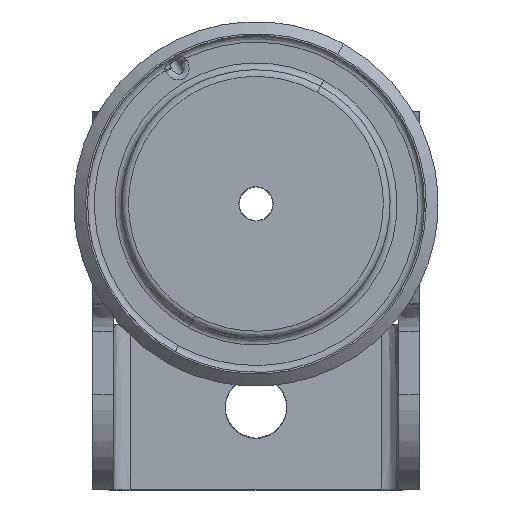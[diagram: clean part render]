
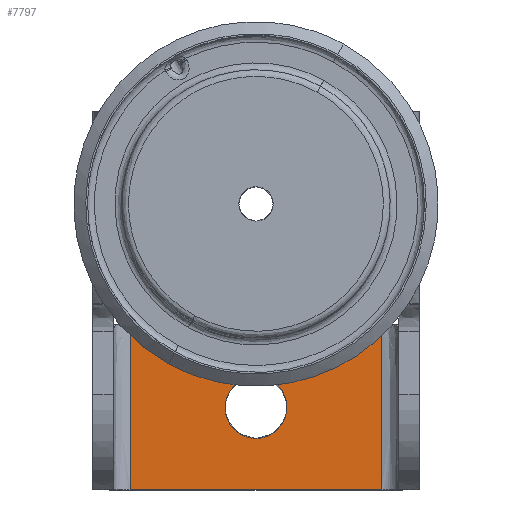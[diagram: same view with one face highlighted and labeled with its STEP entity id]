
A CAD part, top view. The second image highlights one B-rep face of the part: STEP entity #7797.
In plain terms, the highlighted planar face has unit normal (0, 0, 1).
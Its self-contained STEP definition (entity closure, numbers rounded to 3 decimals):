
#6534 = EDGE_CURVE ( 'NONE', #7609, #7497, #14336, .T. ) ;
#6541 = EDGE_CURVE ( 'NONE', #7599, #7342, #14876, .T. ) ;
#6572 = EDGE_CURVE ( 'NONE', #7609, #7599, #14488, .T. ) ;
#6801 = EDGE_CURVE ( 'NONE', #7660, #7403, #18792, .T. ) ;
#7342 = VERTEX_POINT ( 'NONE', #22906 ) ;
#7403 = VERTEX_POINT ( 'NONE', #22966 ) ;
#7497 = VERTEX_POINT ( 'NONE', #23060 ) ;
#7599 = VERTEX_POINT ( 'NONE', #23162 ) ;
#7609 = VERTEX_POINT ( 'NONE', #23172 ) ;
#7660 = VERTEX_POINT ( 'NONE', #23223 ) ;
#7797 = ADVANCED_FACE ( 'NONE', ( #20206, #20217 ), #22028, .T. ) ;
#9743 = CARTESIAN_POINT ( 'NONE',  ( 9., -59., -120. ) ) ;
#9748 = CARTESIAN_POINT ( 'NONE',  ( 9., -60.58, -120. ) ) ;
#9749 = CARTESIAN_POINT ( 'NONE',  ( 8.584, -62.132, -120. ) ) ;
#9750 = CARTESIAN_POINT ( 'NONE',  ( 7.794, -63.5, -120. ) ) ;
#9751 = CARTESIAN_POINT ( 'NONE',  ( 7.004, -64.868, -120. ) ) ;
#9752 = CARTESIAN_POINT ( 'NONE',  ( 5.868, -66.004, -120. ) ) ;
#9753 = CARTESIAN_POINT ( 'NONE',  ( 4.5, -66.794, -120. ) ) ;
#9754 = CARTESIAN_POINT ( 'NONE',  ( 3.132, -67.584, -120. ) ) ;
#9755 = CARTESIAN_POINT ( 'NONE',  ( 1.58, -68., -120. ) ) ;
#9756 = CARTESIAN_POINT ( 'NONE',  ( 0., -68., -120. ) ) ;
#9757 = CARTESIAN_POINT ( 'NONE',  ( -1.58, -68., -120. ) ) ;
#9758 = CARTESIAN_POINT ( 'NONE',  ( -3.132, -67.584, -120. ) ) ;
#9759 = CARTESIAN_POINT ( 'NONE',  ( -4.5, -66.794, -120. ) ) ;
#9760 = CARTESIAN_POINT ( 'NONE',  ( -5.868, -66.004, -120. ) ) ;
#9761 = CARTESIAN_POINT ( 'NONE',  ( -7.004, -64.868, -120. ) ) ;
#9762 = CARTESIAN_POINT ( 'NONE',  ( -7.794, -63.5, -120. ) ) ;
#9763 = CARTESIAN_POINT ( 'NONE',  ( -8.584, -62.132, -120. ) ) ;
#9764 = CARTESIAN_POINT ( 'NONE',  ( -9., -60.58, -120. ) ) ;
#9765 = CARTESIAN_POINT ( 'NONE',  ( -9., -59., -120. ) ) ;
#12709 = CARTESIAN_POINT ( 'NONE',  ( -9., -59., -120. ) ) ;
#12714 = CARTESIAN_POINT ( 'NONE',  ( -9., -57.42, -120. ) ) ;
#12715 = CARTESIAN_POINT ( 'NONE',  ( -8.584, -55.868, -120. ) ) ;
#12716 = CARTESIAN_POINT ( 'NONE',  ( -7.794, -54.5, -120. ) ) ;
#12717 = CARTESIAN_POINT ( 'NONE',  ( -7.004, -53.132, -120. ) ) ;
#12718 = CARTESIAN_POINT ( 'NONE',  ( -5.868, -51.996, -120. ) ) ;
#12719 = CARTESIAN_POINT ( 'NONE',  ( -4.5, -51.206, -120. ) ) ;
#12720 = CARTESIAN_POINT ( 'NONE',  ( -3.132, -50.416, -120. ) ) ;
#12721 = CARTESIAN_POINT ( 'NONE',  ( -1.58, -50., -120. ) ) ;
#12722 = CARTESIAN_POINT ( 'NONE',  ( 0., -50., -120. ) ) ;
#12723 = CARTESIAN_POINT ( 'NONE',  ( 1.58, -50., -120. ) ) ;
#12724 = CARTESIAN_POINT ( 'NONE',  ( 3.132, -50.416, -120. ) ) ;
#12725 = CARTESIAN_POINT ( 'NONE',  ( 4.5, -51.206, -120. ) ) ;
#12726 = CARTESIAN_POINT ( 'NONE',  ( 5.868, -51.996, -120. ) ) ;
#12727 = CARTESIAN_POINT ( 'NONE',  ( 7.004, -53.132, -120. ) ) ;
#12728 = CARTESIAN_POINT ( 'NONE',  ( 7.794, -54.5, -120. ) ) ;
#12729 = CARTESIAN_POINT ( 'NONE',  ( 8.584, -55.868, -120. ) ) ;
#12730 = CARTESIAN_POINT ( 'NONE',  ( 9., -57.42, -120. ) ) ;
#12731 = CARTESIAN_POINT ( 'NONE',  ( 9., -59., -120. ) ) ;
#13046 = EDGE_LOOP ( 'NONE', ( #22591, #22516 ) ) ;
#13204 = EDGE_LOOP ( 'NONE', ( #22617, #22624, #22668, #22619 ) ) ;
#14336 = LINE ( 'NONE', #22257, #14542 ) ;
#14488 = LINE ( 'NONE', #22075, #14559 ) ;
#14542 = VECTOR ( 'NONE', #22254, 1000. ) ;
#14559 = VECTOR ( 'NONE', #22074, 1000. ) ;
#14876 = LINE ( 'NONE', #22226, #15138 ) ;
#15138 = VECTOR ( 'NONE', #22225, 1000. ) ;
#18792 = B_SPLINE_CURVE_WITH_KNOTS ( 'NONE', 3,
 ( #9743, #9748, #9749, #9750, #9751, #9752, #9753, #9754, #9755, #9756, #9757, #9758, #9759, #9760, #9761, #9762, #9763, #9764, #9765 ),
 .UNSPECIFIED., .F., .F.,
 ( 4, 3, 3, 3, 3, 3, 4 ),
 ( -0.026, -0.021, -0.016, -0.012, -0.007, -0.002, 0.002 ),
 .UNSPECIFIED. ) ;
#19078 = B_SPLINE_CURVE_WITH_KNOTS ( 'NONE', 3,
 ( #12709, #12714, #12715, #12716, #12717, #12718, #12719, #12720, #12721, #12722, #12723, #12724, #12725, #12726, #12727, #12728, #12729, #12730, #12731 ),
 .UNSPECIFIED., .F., .F.,
 ( 4, 3, 3, 3, 3, 3, 4 ),
 ( -0.026, -0.021, -0.016, -0.012, -0.007, -0.002, 0.002 ),
 .UNSPECIFIED. ) ;
#20131 = VECTOR ( 'NONE', #35136, 1000. ) ;
#20140 = LINE ( 'NONE', #34152, #20131 ) ;
#20206 = FACE_BOUND ( 'NONE', #13046, .T. ) ;
#20217 = FACE_OUTER_BOUND ( 'NONE', #13204, .T. ) ;
#21662 = CARTESIAN_POINT ( 'NONE',  ( -36.5, -35., -120. ) ) ;
#22028 = PLANE ( 'NONE',  #31915 ) ;
#22029 = DIRECTION ( 'NONE',  ( 0., 0., 1. ) ) ;
#22030 = DIRECTION ( 'NONE',  ( 0., -1., 0. ) ) ;
#22074 = DIRECTION ( 'NONE',  ( 0., -1., 0. ) ) ;
#22075 = CARTESIAN_POINT ( 'NONE',  ( 36.5, -35., -120. ) ) ;
#22225 = DIRECTION ( 'NONE',  ( -1., 0., 0. ) ) ;
#22226 = CARTESIAN_POINT ( 'NONE',  ( 47.5, -83., -120. ) ) ;
#22254 = DIRECTION ( 'NONE',  ( -1., 0., 0. ) ) ;
#22257 = CARTESIAN_POINT ( 'NONE',  ( -36.5, -35., -120. ) ) ;
#22516 = ORIENTED_EDGE ( 'NONE', *, *, #32030, .T. ) ;
#22591 = ORIENTED_EDGE ( 'NONE', *, *, #6801, .T. ) ;
#22617 = ORIENTED_EDGE ( 'NONE', *, *, #6572, .F. ) ;
#22619 = ORIENTED_EDGE ( 'NONE', *, *, #6541, .F. ) ;
#22624 = ORIENTED_EDGE ( 'NONE', *, *, #6534, .T. ) ;
#22668 = ORIENTED_EDGE ( 'NONE', *, *, #31891, .T. ) ;
#22906 = CARTESIAN_POINT ( 'NONE',  ( -36.5, -83., -120. ) ) ;
#22966 = CARTESIAN_POINT ( 'NONE',  ( -9., -59., -120. ) ) ;
#23060 = CARTESIAN_POINT ( 'NONE',  ( -36.5, -35., -120. ) ) ;
#23162 = CARTESIAN_POINT ( 'NONE',  ( 36.5, -83., -120. ) ) ;
#23172 = CARTESIAN_POINT ( 'NONE',  ( 36.5, -35., -120. ) ) ;
#23223 = CARTESIAN_POINT ( 'NONE',  ( 9., -59., -120. ) ) ;
#31891 = EDGE_CURVE ( 'NONE', #7497, #7342, #20140, .T. ) ;
#31915 = AXIS2_PLACEMENT_3D ( 'NONE', #21662, #22029, #22030 ) ;
#32030 = EDGE_CURVE ( 'NONE', #7403, #7660, #19078, .T. ) ;
#34152 = CARTESIAN_POINT ( 'NONE',  ( -36.5, -35., -120. ) ) ;
#35136 = DIRECTION ( 'NONE',  ( 0., -1., 0. ) ) ;
